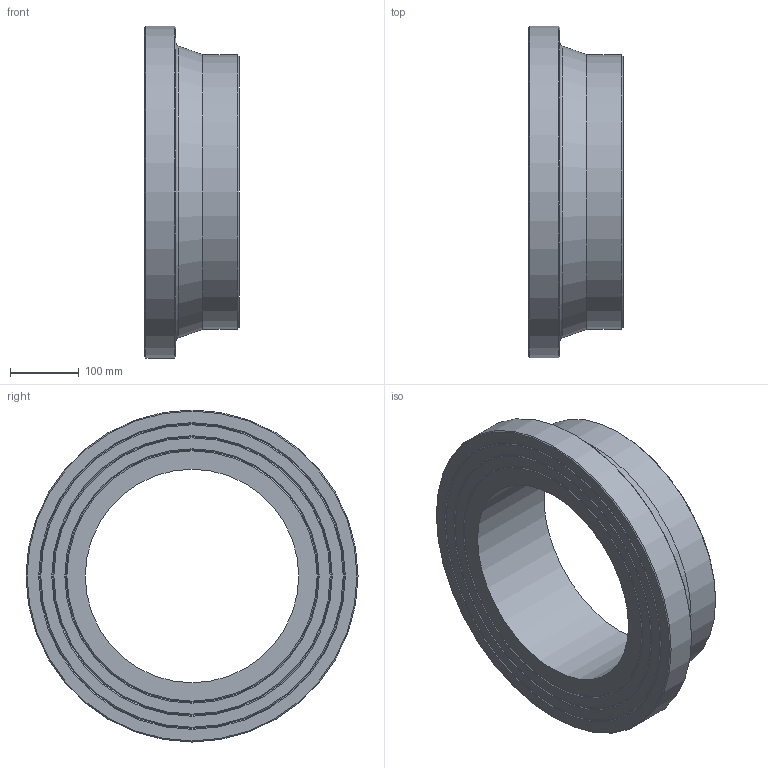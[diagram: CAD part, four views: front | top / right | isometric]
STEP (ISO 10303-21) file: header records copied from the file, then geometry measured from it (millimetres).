
FILE_DESCRIPTION(/* description */ ('Unknown'),/* implementation_level */ '2;1');
FILE_NAME(/* name */ 'CCP400C',/* time_stamp */ '2022-04-04T15:19:19+02:00',/* author */ ('Unknown'),/* organization */ ('Unknown'),/* preprocessor_version */ 'ST-DEVELOPER v18.1',/* originating_system */ 'Solid Edge',/* authorisation */ 'Unknown');
FILE_SCHEMA (('AUTOMOTIVE_DESIGN {1 0 10303 214 3 1 1}'));
Length unit declared in the file: millimetre
Products named in the file (1): CCP400C
Bounding box: 137 x 483 x 483 mm (x, y, z)
Volume: 9754947.6 mm3; surface area: 516287.2 mm2
Topology: 1 solids, 1 shells, 20 faces, 35 edges, 21 vertices
Faces by surface type: cone 10, plane 6, cylinder 3, torus 1
Full cylindrical faces by diameter (mm): 310.6 x1, 400 x1, 483 x1
Entity records: 438 total; most frequent: DIRECTION 82, CARTESIAN_POINT 61, AXIS2_PLACEMENT_3D 41, ORIENTED_EDGE 40, EDGE_LOOP 40, FACE_BOUND 40, EDGE_CURVE 20, VERTEX_POINT 20
